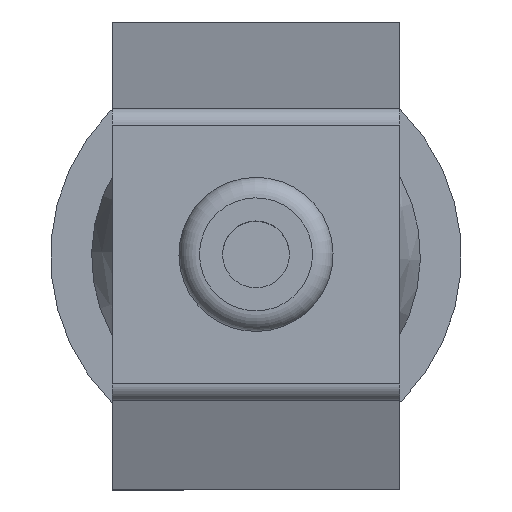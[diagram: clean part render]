
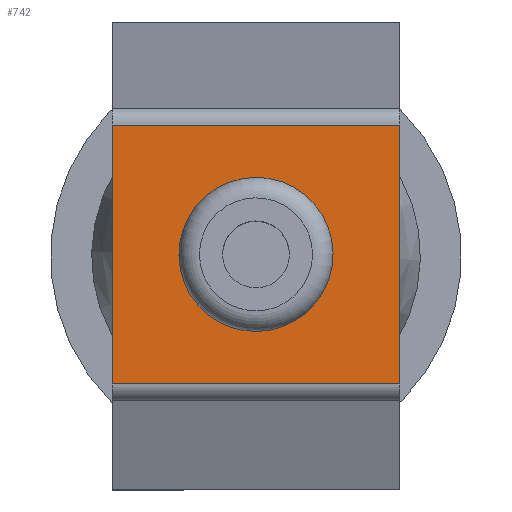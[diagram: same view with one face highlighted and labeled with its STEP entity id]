
A CAD part, top view. The second image highlights one B-rep face of the part: STEP entity #742.
In plain terms, the highlighted planar face has unit normal (0, 0, 1) as drawn and (0, 1, 0) by its records, which use the part's own axes.
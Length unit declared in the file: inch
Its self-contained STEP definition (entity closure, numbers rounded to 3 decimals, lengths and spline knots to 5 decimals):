
#225=CARTESIAN_POINT('',(0.60622,5.04273,0.0));
#226=VERTEX_POINT('',#225);
#227=CARTESIAN_POINT('',(0.26247,5.04273,0.0));
#228=DIRECTION('',(0.0,-1.0,0.0));
#229=DIRECTION('',(1.0,0.0,0.0));
#230=AXIS2_PLACEMENT_3D('',#227,#228,#229);
#231=CIRCLE('',#230,0.34375);
#232=EDGE_CURVE('',#226,#226,#231,.T.);
#353=CARTESIAN_POINT('',(-0.52489,5.04273,-0.875));
#354=VERTEX_POINT('',#353);
#362=CARTESIAN_POINT('',(1.04983,5.04273,-0.875));
#363=VERTEX_POINT('',#362);
#364=CARTESIAN_POINT('',(1.04983,5.04273,-0.875));
#365=DIRECTION('',(-1.0,0.0,0.0));
#366=VECTOR('',#365,1.57473);
#367=LINE('',#364,#366);
#368=EDGE_CURVE('',#363,#354,#367,.T.);
#696=CARTESIAN_POINT('',(-0.52489,5.04273,0.875));
#697=VERTEX_POINT('',#696);
#705=CARTESIAN_POINT('',(-0.52489,5.04273,-0.875));
#706=DIRECTION('',(0.0,0.0,1.0));
#707=VECTOR('',#706,1.75);
#708=LINE('',#705,#707);
#709=EDGE_CURVE('',#354,#697,#708,.T.);
#716=CARTESIAN_POINT('',(-0.52489,5.04273,0.0));
#717=DIRECTION('',(0.0,1.0,0.0));
#718=DIRECTION('',(0.0,0.0,1.0));
#719=AXIS2_PLACEMENT_3D('',#716,#717,#718);
#720=PLANE('',#719);
#721=CARTESIAN_POINT('',(1.04983,5.04273,0.875));
#722=VERTEX_POINT('',#721);
#723=CARTESIAN_POINT('',(-0.52489,5.04273,0.875));
#724=DIRECTION('',(1.0,0.0,0.0));
#725=VECTOR('',#724,1.57473);
#726=LINE('',#723,#725);
#727=EDGE_CURVE('',#697,#722,#726,.T.);
#728=ORIENTED_EDGE('',*,*,#727,.T.);
#729=CARTESIAN_POINT('',(1.04983,5.04273,-0.875));
#730=DIRECTION('',(0.0,0.0,1.0));
#731=VECTOR('',#730,1.75);
#732=LINE('',#729,#731);
#733=EDGE_CURVE('',#363,#722,#732,.T.);
#734=ORIENTED_EDGE('',*,*,#733,.F.);
#735=ORIENTED_EDGE('',*,*,#368,.T.);
#736=ORIENTED_EDGE('',*,*,#709,.T.);
#737=EDGE_LOOP('',(#728,#734,#735,#736));
#738=FACE_OUTER_BOUND('',#737,.T.);
#739=ORIENTED_EDGE('',*,*,#232,.T.);
#740=EDGE_LOOP('',(#739));
#741=FACE_BOUND('',#740,.T.);
#742=ADVANCED_FACE('',(#738,#741),#720,.T.);
